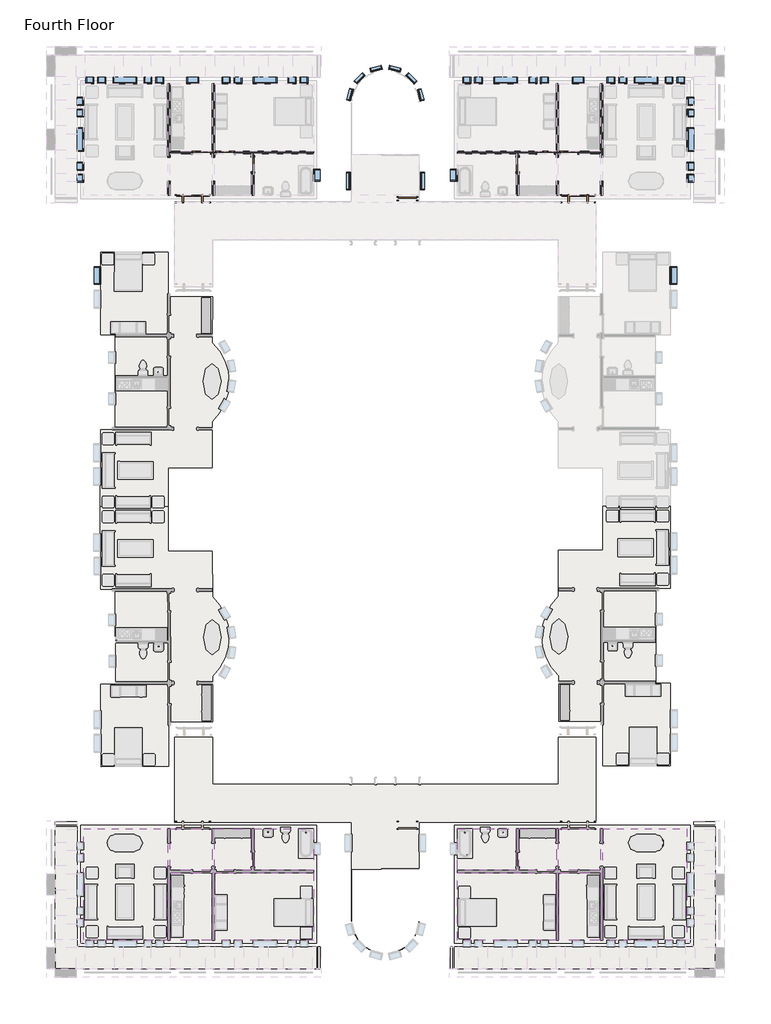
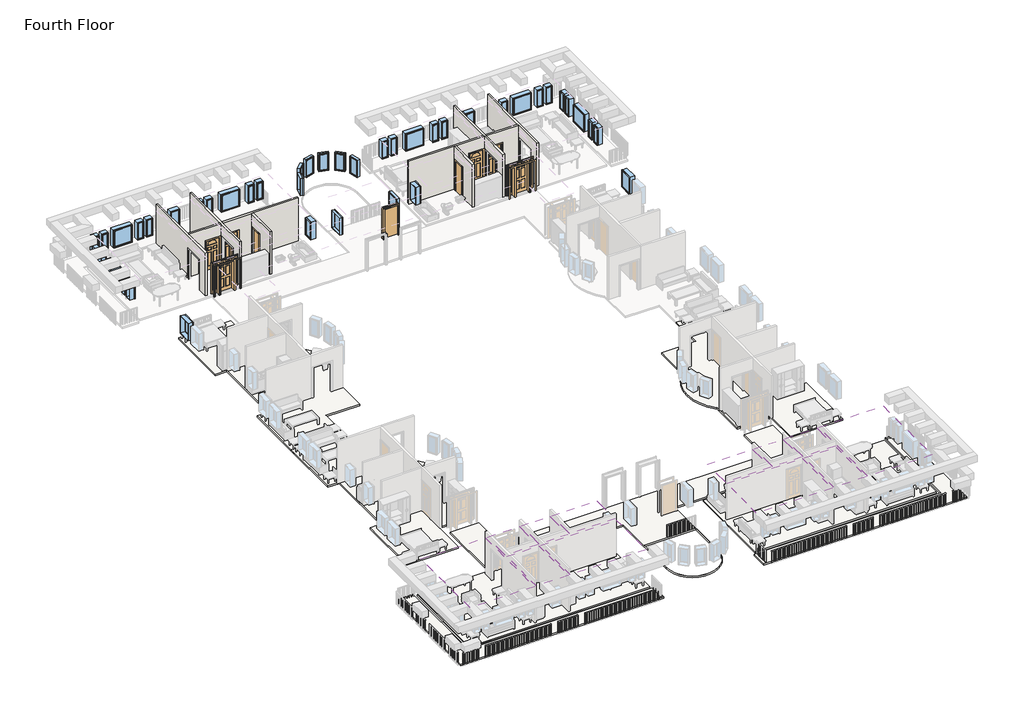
# One storey, part 3 of 6: 44 windows, 12 coverings, 10 walls, 9 doors, 8 slabs.
"""IFC4 building model written with IfcOpenShell, lengths in millimetres."""

from ifc_helpers import new_model, si_unit, point, frame, frame_2d, origin, place, context, project, spatial, polyline, circle_curve, trimmed, segment, composite_curve, outline, extrude, faceted_brep, transform, mapped, element, save
from components import door_829da954, door_2e3b4da2, door_4d6c7550, door_e36758a9, door_16372e1c, door_dba5aa2e, door_ffdb1193, window_da97879f, window_d61ef850, window_60baf983, window_ed80354a, window_80bd9af0, window_15c49d37, window_0e2fc6ce, window_e2841890, window_6eb97611, window_d89bf842

model = new_model("IFC4")

# Units and contexts
model_context = context("Model", 3, world=origin())
ifc_project = project(units=[si_unit("LENGTHUNIT", "METRE", prefix="MILLI")], contexts=[model_context])

# Site, building, storey
site = spatial("IfcSite", under=ifc_project)
building = spatial("IfcBuilding", under=site)
storey = spatial("IfcBuildingStorey", under=building, Name="Fourth Floor", Elevation=9144.0)

# Coverings
placement = place(None, origin())
element("IfcCovering", 1, ObjectType="GWB on Mtl. Stud", at=placement, inside=storey, context=model_context, shape_type="SweptSolid", body=[
    extrude(outline(polyline([(-11217.2464563, -33878.3558133), (-11217.2464563, -30395.3808133), (-6122.9589563, -30395.3808133), (-6122.9589563, -33878.3558133), (-11217.2464563, -33878.3558133)])), frame((0.0, 0.0, 11734.8), z_axis=(0.0, 0.0, 1.0), x_axis=(1.0, 0.0, 0.0)), (0.0, 0.0, 1.0), 107.95),
])
element("IfcCovering", 2, ObjectType="GWB on Mtl. Stud", at=placement, inside=storey, context=model_context, shape_type="SweptSolid", body=[
    extrude(outline(polyline([(-5995.9589563, -30395.3808133), (-3836.9589563, -30395.3808133), (-3836.9589563, -33878.3558133), (-5995.9589563, -33878.3558133), (-5995.9589563, -30395.3808133)])), frame((0.0, 0.0, 11734.8), z_axis=(0.0, 0.0, 1.0), x_axis=(1.0, 0.0, 0.0)), (0.0, 0.0, 1.0), 107.95),
])
element("IfcCovering", 3, ObjectType="GWB on Mtl. Stud", at=placement, inside=storey, context=model_context, shape_type="SweptSolid", body=[
    extrude(outline(polyline([(-3709.9589563, -28134.7808133), (622.3285437, -28134.7808133), (622.3285437, -33878.3558133), (-3709.9589563, -33878.3558133), (-3709.9589563, -28134.7808133)])), frame((0.0, 0.0, 11734.8), z_axis=(0.0, 0.0, 1.0), x_axis=(1.0, 0.0, 0.0)), (0.0, 0.0, 1.0), 107.95),
])
element("IfcCovering", 4, ObjectType="GWB on Mtl. Stud", at=placement, inside=storey, context=model_context, shape_type="SweptSolid", body=[
    extrude(outline(polyline([(-3836.9589563, -28134.7808133), (-3836.9589563, -30268.3808133), (-5995.9589563, -30268.3808133), (-5995.9589563, -28134.7808133), (-3836.9589563, -28134.7808133)])), frame((0.0, 0.0, 11734.8), z_axis=(0.0, 0.0, 1.0), x_axis=(1.0, 0.0, 0.0)), (0.0, 0.0, 1.0), 107.95),
])
element("IfcCovering", 5, ObjectType="GWB on Mtl. Stud", at=placement, inside=storey, context=model_context, shape_type="SweptSolid", body=[
    extrude(outline(polyline([(-6122.9589563, -28134.7808133), (-6122.9589563, -30268.3808133), (-8042.2464563, -30268.3808133), (-8042.2464563, -28134.7808133), (-6122.9589563, -28134.7808133)])), frame((0.0, 0.0, 11734.8), z_axis=(0.0, 0.0, 1.0), x_axis=(1.0, 0.0, 0.0)), (0.0, 0.0, 1.0), 107.95),
])
element("IfcCovering", 6, ObjectType="GWB on Mtl. Stud", at=placement, inside=storey, context=model_context, shape_type="SweptSolid", body=[
    extrude(outline(polyline([(-8169.2464563, -30268.3808133), (-11217.2464563, -30268.3808133), (-11217.2464563, -28134.7808133), (-8169.2464563, -28134.7808133), (-8169.2464563, -30268.3808133)])), frame((0.0, 0.0, 11734.8), z_axis=(0.0, 0.0, 1.0), x_axis=(1.0, 0.0, 0.0)), (0.0, 0.0, 1.0), 107.95),
])
element("IfcCovering", 7, ObjectType="GWB on Mtl. Stud", at=placement, inside=storey, context=model_context, shape_type="SweptSolid", body=[
    extrude(outline(polyline([(-18653.0964563, -33878.3558133), (-23747.3839563, -33878.3558133), (-23747.3839563, -30395.3808133), (-18653.0964563, -30395.3808133), (-18653.0964563, -33878.3558133)])), frame((0.0, 0.0, 11734.8), z_axis=(0.0, 0.0, 1.0), x_axis=(1.0, 0.0, 0.0)), (0.0, 0.0, 1.0), 107.95),
])
element("IfcCovering", 8, ObjectType="GWB on Mtl. Stud", at=placement, inside=storey, context=model_context, shape_type="SweptSolid", body=[
    extrude(outline(polyline([(-23874.3839563, -30395.3808133), (-23874.3839563, -33878.3558133), (-26033.3839563, -33878.3558133), (-26033.3839563, -30395.3808133), (-23874.3839563, -30395.3808133)])), frame((0.0, 0.0, 11734.8), z_axis=(0.0, 0.0, 1.0), x_axis=(1.0, 0.0, 0.0)), (0.0, 0.0, 1.0), 107.95),
])
element("IfcCovering", 9, ObjectType="GWB on Mtl. Stud", at=placement, inside=storey, context=model_context, shape_type="SweptSolid", body=[
    extrude(outline(polyline([(-26160.3839563, -28134.7808133), (-26160.3839563, -33878.3558133), (-30492.6714563, -33878.3558133), (-30492.6714563, -28134.7808133), (-26160.3839563, -28134.7808133)])), frame((0.0, 0.0, 11734.8), z_axis=(0.0, 0.0, 1.0), x_axis=(1.0, 0.0, 0.0)), (0.0, 0.0, 1.0), 107.95),
])
element("IfcCovering", 10, ObjectType="GWB on Mtl. Stud", at=placement, inside=storey, context=model_context, shape_type="SweptSolid", body=[
    extrude(outline(polyline([(-26033.3839563, -28134.7808133), (-23874.3839563, -28134.7808133), (-23874.3839563, -30268.3808133), (-26033.3839563, -30268.3808133), (-26033.3839563, -28134.7808133)])), frame((0.0, 0.0, 11734.8), z_axis=(0.0, 0.0, 1.0), x_axis=(1.0, 0.0, 0.0)), (0.0, 0.0, 1.0), 107.95),
])
element("IfcCovering", 11, ObjectType="GWB on Mtl. Stud", at=placement, inside=storey, context=model_context, shape_type="SweptSolid", body=[
    extrude(outline(polyline([(-23747.3839563, -28134.7808133), (-21828.0964563, -28134.7808133), (-21828.0964563, -30268.3808133), (-23747.3839563, -30268.3808133), (-23747.3839563, -28134.7808133)])), frame((0.0, 0.0, 11734.8), z_axis=(0.0, 0.0, 1.0), x_axis=(1.0, 0.0, 0.0)), (0.0, 0.0, 1.0), 107.95),
])
element("IfcCovering", 12, ObjectType="GWB on Mtl. Stud", at=placement, inside=storey, context=model_context, shape_type="SweptSolid", body=[
    extrude(outline(polyline([(-21701.0964563, -30268.3808133), (-21701.0964563, -28134.7808133), (-18653.0964563, -28134.7808133), (-18653.0964563, -30268.3808133), (-21701.0964563, -30268.3808133)])), frame((0.0, 0.0, 11734.8), z_axis=(0.0, 0.0, 1.0), x_axis=(1.0, 0.0, 0.0)), (0.0, 0.0, 1.0), 107.95),
])

# Doors
door_shape = door_829da954(model_context)
element("IfcDoor", 13, ObjectType="Single-Decorative 2 : 36\" x 84\"", at=placement, inside=storey, context=model_context, shape_type="MappedRepresentation", body=[
    mapped(door_shape, transform((-5449.8589563, 6723.5441867, 9144.0), x_axis=(-1.0, 0.0, 0.0), y_axis=(0.0, -1.0, 0.0), z_axis=(0.0, 0.0, 1.0))),
])
element("IfcDoor", 14, ObjectType="Single-Decorative 2 : 36\" x 84\"", at=placement, inside=storey, context=model_context, shape_type="MappedRepresentation", body=[
    mapped(door_shape, transform((-23201.2839563, 6723.5441867, 9144.0), x_axis=(-1.0, 0.0, 0.0), y_axis=(0.0, -1.0, 0.0), z_axis=(0.0, 0.0, 1.0))),
])
door_2_shape = door_2e3b4da2(model_context)
element("IfcDoor", 15, ObjectType="Single-Decorative 2 : 36\" x 84\"", at=placement, inside=storey, context=model_context, shape_type="MappedRepresentation", body=[
    mapped(door_2_shape, transform((-6669.0589563, 6723.5441867, 9144.0), x_axis=(1.0, 0.0, 0.0), y_axis=(0.0, 1.0, 0.0), z_axis=(0.0, 0.0, 1.0))),
])
element("IfcDoor", 16, ObjectType="Single-Decorative 2 : 36\" x 84\"", at=placement, inside=storey, context=model_context, shape_type="MappedRepresentation", body=[
    mapped(door_2_shape, transform((-24420.4839563, 6723.5441867, 9144.0), x_axis=(1.0, 0.0, 0.0), y_axis=(0.0, 1.0, 0.0), z_axis=(0.0, 0.0, 1.0))),
])
door_3_shape = door_4d6c7550(model_context)
element("IfcDoor", 17, ObjectType="Single-Flush : 30\" x 84\"", at=placement, inside=storey, context=model_context, shape_type="MappedRepresentation", body=[
    mapped(door_3_shape, transform((-8105.7464563, 6113.9441867, 9144.0), x_axis=(0.0, 1.0, 0.0), y_axis=(-1.0, 0.0, 0.0), z_axis=(0.0, 0.0, 1.0))),
])
door_4_shape = door_e36758a9(model_context)
element("IfcDoor", 18, ObjectType="Single-Flush : 30\" x 84\"", at=placement, inside=storey, context=model_context, shape_type="MappedRepresentation", body=[
    mapped(door_4_shape, transform((-21764.5964563, 6113.9441867, 9144.0), x_axis=(0.0, 1.0, 0.0), y_axis=(-1.0, 0.0, 0.0), z_axis=(0.0, 0.0, 1.0))),
])
door_5_shape = door_16372e1c(model_context)
element("IfcDoor", 19, ObjectType="Single-Flush : 36\" x 84\"", at=placement, inside=storey, context=model_context, shape_type="MappedRepresentation", body=[
    mapped(door_5_shape, transform((-13792.1714563, 4350.2316867, 9144.0), x_axis=(1.0, 0.0, 0.0), y_axis=(0.0, 1.0, 0.0), z_axis=(0.0, 0.0, 1.0))),
])
door_6_shape = door_dba5aa2e(model_context)
element("IfcDoor", 20, ObjectType="Single-Raised Panel with Sidelights : 36\" x 84\"", at=placement, inside=storey, context=model_context, shape_type="MappedRepresentation", body=[
    mapped(door_6_shape, transform((-4992.6589563, 4350.2316867, 9144.0), x_axis=(-1.0, 0.0, 0.0), y_axis=(0.0, -1.0, 0.0), z_axis=(0.0, 0.0, 1.0))),
])
door_7_shape = door_ffdb1193(model_context)
element("IfcDoor", 21, ObjectType="Single-Raised Panel with Sidelights : 36\" x 84\"", at=placement, inside=storey, context=model_context, shape_type="MappedRepresentation", body=[
    mapped(door_7_shape, transform((-24877.6839563, 4350.2316867, 9144.0), x_axis=(1.0, 0.0, 0.0), y_axis=(0.0, 1.0, 0.0), z_axis=(0.0, 0.0, 1.0))),
])

# Slabs
element("IfcSlab", 22, ObjectType="LW Concrete on Metal Deck", at=placement, inside=storey, context=model_context, shape_type="SweptSolid", body=[
    extrude(outline(composite_curve([segment(trimmed(circle_curve(frame_2d((-14935.1714563, -32835.3683133)), 1741.4875), [point((-13193.6839563, -32835.3683133))], [point((-16676.6589563, -32835.3683133))], False, "CARTESIAN"), True, "CONTINUOUS"), segment(polyline([(-16676.6589563, -32835.3683133), (-16676.6589563, -27795.0558133), (-25807.9589563, -27795.0558133), (-25807.9589563, -23410.3808133), (-23861.6839563, -23410.3808133), (-23861.6839563, -25836.0808133), (-6008.6589563, -25836.0808133), (-6008.6589563, -23410.3808133), (-4062.3839563, -23410.3808133), (-4062.3839563, -27795.0558133), (-13193.6839563, -27795.0558133), (-13193.6839563, -32835.3683133)]), True, "CONTINUOUS")], self_intersect=False), holes=[composite_curve([segment(polyline([(-13206.3839563, -30244.5683133), (-16663.9589563, -30244.5683133), (-16663.9589563, -32835.3683133)]), True, "CONTINUOUS"), segment(trimmed(circle_curve(frame_2d((-14935.1714563, -32835.3683133)), 1728.7875), [point((-16663.9589563, -32835.3683133))], [point((-13206.3839563, -32835.3683133))], True, "CARTESIAN"), True, "CONTINUOUS"), segment(polyline([(-13206.3839563, -32835.3683133), (-13206.3839563, -30244.5683133)]), True, "CONTINUOUS")], self_intersect=False)]), frame((0.0, 0.0, 9039.225), z_axis=(0.0, 0.0, 1.0), x_axis=(1.0, 0.0, 0.0)), (0.0, 0.0, 1.0), 104.775),
])
element("IfcSlab", 23, ObjectType="LW Concrete on Metal Deck", at=placement, inside=storey, context=model_context, shape_type="SweptSolid", body=[
    extrude(outline(polyline([(2093.9410437, -35349.9683133), (-11569.6714563, -35349.9683133), (-11569.6714563, -34230.7808133), (974.7535437, -34230.7808133), (974.7535437, -27782.3558133), (2093.9410437, -27782.3558133), (2093.9410437, -35349.9683133)])), frame((0.0, 0.0, 9039.225), z_axis=(0.0, 0.0, 1.0), x_axis=(1.0, 0.0, 0.0)), (0.0, 0.0, 1.0), 104.775),
])
element("IfcSlab", 24, ObjectType="LW Concrete on Metal Deck", at=placement, inside=storey, context=model_context, shape_type="SweptSolid", body=[
    extrude(outline(polyline([(-31964.2839563, -35349.9683133), (-31964.2839563, -27782.3558133), (-30845.0964563, -27782.3558133), (-30845.0964563, -34230.7808133), (-18300.6714563, -34230.7808133), (-18300.6714563, -35349.9683133), (-31964.2839563, -35349.9683133)])), frame((0.0, 0.0, 9039.225), z_axis=(0.0, 0.0, 1.0), x_axis=(1.0, 0.0, 0.0)), (0.0, 0.0, 1.0), 104.775),
])
element("IfcSlab", 25, ObjectType="LW Concrete on Metal Deck", at=placement, inside=storey, context=model_context, shape_type="SweptSolid", body=[
    extrude(outline(polyline([(787.4285437, -34043.4558133), (-11382.3464563, -34043.4558133), (-11382.3464563, -27969.6808133), (787.4285437, -27969.6808133), (787.4285437, -34043.4558133)])), frame((0.0, 0.0, 9039.225), z_axis=(0.0, 0.0, 1.0), x_axis=(1.0, 0.0, 0.0)), (0.0, 0.0, 1.0), 104.775),
])
element("IfcSlab", 26, ObjectType="LW Concrete on Metal Deck", at=placement, inside=storey, context=model_context, shape_type="SweptSolid", body=[
    extrude(outline(polyline([(-30657.7714563, -34043.4558133), (-30657.7714563, -27969.6808133), (-18487.9964563, -27969.6808133), (-18487.9964563, -34043.4558133), (-30657.7714563, -34043.4558133)])), frame((0.0, 0.0, 9039.225), z_axis=(0.0, 0.0, 1.0), x_axis=(1.0, 0.0, 0.0)), (0.0, 0.0, 1.0), 104.775),
])
element("IfcSlab", 27, ObjectType="LW Concrete on Metal Deck", at=placement, inside=storey, context=model_context, shape_type="SweptSolid", body=[
    extrude(outline(composite_curve([segment(polyline([(-29629.4198927, 1586.7324761), (-26146.4458956, 1584.0893338), (-26148.1806836, -701.9100079), (-23862.1813418, -703.6447959), (-23863.972674, -3064.1546144)]), True, "CONTINUOUS"), segment(trimmed(circle_curve(frame_2d((-25878.7211376, -5110.6032635)), 2871.7875), [point((-23863.972674, -3064.1546144))], [point((-23867.0809905, -7160.1074386))], False, "CARTESIAN"), True, "CONTINUOUS"), segment(polyline([(-23867.0809905, -7160.1074386), (-23868.8723227, -9520.6172571), (-26154.8716644, -9518.8824691), (-26156.6064524, -11804.8818109), (-29639.5804495, -11802.2386686), (-29636.3590446, -7557.264891), (-28874.359264, -7557.8431536), (-28870.641517, -2658.8195643), (-29632.6412976, -2658.2413016), (-29629.4198927, 1586.7324761)]), True, "CONTINUOUS")], self_intersect=False)), frame((0.0, 0.0, 9039.225), z_axis=(0.0, 0.0, 1.0), x_axis=(1.0, 0.0, 0.0)), (0.0, 0.0, 1.0), 104.775),
])
element("IfcSlab", 28, ObjectType="LW Concrete on Metal Deck", at=placement, inside=storey, context=model_context, shape_type="SweptSolid", body=[
    extrude(outline(composite_curve([segment(polyline([(-220.8330845, -24886.5771888), (-3703.8070816, -24889.220331), (-3705.5418696, -22603.2209892), (-5991.5412113, -22604.9557772), (-5993.3325434, -20244.4459587)]), True, "CONTINUOUS"), segment(trimmed(circle_curve(frame_2d((-3981.6923964, -18194.9417836)), 2871.7875), [point((-5993.3325434, -20244.4459587))], [point((-5996.44086, -16148.4931345))], False, "CARTESIAN"), True, "CONTINUOUS"), segment(polyline([(-5996.44086, -16148.4931345), (-5998.2321921, -13787.983316), (-3712.2328504, -13786.248528), (-3713.9676383, -11500.2491863), (-230.9936413, -11497.606044), (-227.7722364, -15742.5798217), (-989.772017, -15743.1580844), (-986.05427, -20642.1816737), (-224.0544894, -20641.6034111), (-220.8330845, -24886.5771888)]), True, "CONTINUOUS")], self_intersect=False)), frame((0.0, 0.0, 9039.225), z_axis=(0.0, 0.0, 1.0), x_axis=(1.0, 0.0, 0.0)), (0.0, 0.0, 1.0), 104.775),
])
element("IfcSlab", 29, ObjectType="LW Concrete on Metal Deck", at=placement, inside=storey, context=model_context, shape_type="SweptSolid", body=[
    extrude(outline(composite_curve([segment(polyline([(-29609.2961082, -24931.1815598), (-29618.9603154, -20686.2175607), (-28856.9622901, -20684.4827741), (-28868.1155225, -15785.4704699), (-29630.1135478, -15787.2052566), (-29639.777755, -11542.2412575), (-26156.8117812, -11534.3118369), (-26151.6074213, -13820.3059127), (-23865.6133455, -13815.1015528), (-23860.2393533, -16175.6059337)]), True, "CONTINUOUS"), segment(trimmed(circle_curve(frame_2d((-25868.7665498, -18228.1609137)), 2871.7875), [point((-23860.2393533, -16175.6059337))], [point((-23850.9144107, -20271.5493226))], False, "CARTESIAN"), True, "CONTINUOUS"), segment(polyline([(-23850.9144107, -20271.5493226), (-23845.5404184, -22632.0537035), (-26131.5344942, -22637.2580634), (-26126.3301343, -24923.2521392), (-29609.2961082, -24931.1815598)]), True, "CONTINUOUS")], self_intersect=False)), frame((0.0, 0.0, 9039.225), z_axis=(0.0, 0.0, 1.0), x_axis=(1.0, 0.0, 0.0)), (0.0, 0.0, 1.0), 104.775),
])

# Walls
element("IfcWall", 30, ObjectType="Interior - 5\" Partition (2-hr)", at=placement, inside=storey, context=model_context, shape_type="Brep", body=[
    faceted_brep([(-3709.9589563, 10270.0191867, 9144.0), (-3709.9589563, 6483.8316867, 9144.0), (-3836.9589563, 6483.8316867, 9144.0), (-3836.9589563, 6660.0441867, 9144.0), (-3836.9589563, 6787.0441867, 9144.0), (-3836.9589563, 10270.0191867, 9144.0), (-3709.9589563, 5264.6316867, 9144.0), (-3709.9589563, 4526.4441867, 9144.0), (-3836.9589563, 4526.4441867, 9144.0), (-3836.9589563, 5264.6316867, 9144.0), (-3836.9589563, 10270.0191867, 12192.0), (-3836.9589563, 6787.0441867, 12192.0), (-3836.9589563, 6660.0441867, 12192.0), (-3836.9589563, 4526.4441867, 12192.0), (-3709.9589563, 4526.4441867, 12192.0), (-3709.9589563, 10270.0191867, 12192.0), (-3836.9589563, 6483.8316867, 11277.6), (-3836.9589563, 5264.6316867, 11277.6), (-3709.9589563, 6483.8316867, 11277.6), (-3709.9589563, 5264.6316867, 11277.6)], [[[0, 1, 2, 3, 4, 5]], [[6, 7, 8, 9]], [[10, 11, 12, 13, 14, 15]], [[5, 4, 3, 2, 16, 17, 9, 8, 13, 12, 11, 10]], [[18, 1, 0, 15, 14, 7, 6, 19]], [[5, 10, 15, 0]], [[13, 8, 7, 14]], [[9, 17, 19, 6]], [[16, 2, 1, 18]], [[17, 16, 18, 19]]]),
])
element("IfcWall", 31, ObjectType="Interior - 5\" Partition (2-hr)", at=placement, inside=storey, context=model_context, shape_type="Brep", body=[
    faceted_brep([(-6122.9589563, 4526.4441867, 9144.0), (-6122.9589563, 5264.6316867, 9144.0), (-5995.9589563, 5264.6316867, 9144.0), (-5995.9589563, 4526.4441867, 9144.0), (-6122.9589563, 6483.8316867, 9144.0), (-6122.9589563, 6660.0441867, 9144.0), (-6122.9589563, 6787.0441867, 9144.0), (-6122.9589563, 10270.0191867, 9144.0), (-5995.9589563, 10270.0191867, 9144.0), (-5995.9589563, 6787.0441867, 9144.0), (-5995.9589563, 6660.0441867, 9144.0), (-5995.9589563, 6483.8316867, 9144.0), (-6122.9589563, 10270.0191867, 12192.0), (-6122.9589563, 6787.0441867, 12192.0), (-6122.9589563, 6660.0441867, 12192.0), (-6122.9589563, 4526.4441867, 12192.0), (-5995.9589563, 4526.4441867, 12192.0), (-5995.9589563, 6660.0441867, 12192.0), (-5995.9589563, 6787.0441867, 12192.0), (-5995.9589563, 10270.0191867, 12192.0), (-6122.9589563, 5264.6316867, 11277.6), (-6122.9589563, 6483.8316867, 11277.6), (-5995.9589563, 5264.6316867, 11277.6), (-5995.9589563, 6483.8316867, 11277.6)], [[[0, 1, 2, 3]], [[4, 5, 6, 7, 8, 9, 10, 11]], [[12, 13, 14, 15, 16, 17, 18, 19]], [[20, 1, 0, 15, 14, 13, 12, 7, 6, 5, 4, 21]], [[3, 2, 22, 23, 11, 10, 9, 8, 19, 18, 17, 16]], [[7, 12, 19, 8]], [[15, 0, 3, 16]], [[11, 23, 21, 4]], [[22, 2, 1, 20]], [[23, 22, 20, 21]]]),
])
element("IfcWall", 32, ObjectType="Interior - 5\" Partition (2-hr)", at=placement, inside=storey, context=model_context, shape_type="Brep", body=[
    faceted_brep([(-6122.9589563, 6660.0441867, 9144.0), (-6211.8589563, 6660.0441867, 9144.0), (-6211.8589563, 6787.0441867, 9144.0), (-6122.9589563, 6787.0441867, 9144.0), (-7126.2589563, 6660.0441867, 9144.0), (-8042.2464563, 6660.0441867, 9144.0), (-8169.2464563, 6660.0441867, 9144.0), (-11217.2464563, 6660.0441867, 9144.0), (-11217.2464563, 6787.0441867, 9144.0), (-7126.2589563, 6787.0441867, 9144.0), (-11217.2464563, 6660.0441867, 12192.0), (-8169.2464563, 6660.0441867, 12192.0), (-8042.2464563, 6660.0441867, 12192.0), (-6122.9589563, 6660.0441867, 12192.0), (-6122.9589563, 6787.0441867, 12192.0), (-11217.2464563, 6787.0441867, 12192.0), (-6211.8589563, 6660.0441867, 11277.6), (-7126.2589563, 6660.0441867, 11277.6), (-6211.8589563, 6787.0441867, 11277.6), (-7126.2589563, 6787.0441867, 11277.6)], [[[0, 1, 2, 3]], [[4, 5, 6, 7, 8, 9]], [[10, 11, 12, 13, 14, 15]], [[16, 1, 0, 13, 12, 11, 10, 7, 6, 5, 4, 17]], [[3, 2, 18, 19, 9, 8, 15, 14]], [[13, 0, 3, 14]], [[7, 10, 15, 8]], [[18, 2, 1, 16]], [[19, 18, 16, 17]], [[9, 19, 17, 4]]]),
])
element("IfcWall", 33, ObjectType="Interior - 5\" Partition (2-hr)", at=placement, inside=storey, context=model_context, shape_type="SweptSolid", body=[
    extrude(outline(polyline([(6660.0441867, 9144.0), (6494.9441867, 9144.0), (6494.9441867, 11277.6), (5732.9441867, 11277.6), (5732.9441867, 9144.0), (4526.4441867, 9144.0), (4526.4441867, 12192.0), (6660.0441867, 12192.0), (6660.0441867, 9144.0)])), frame((-8169.2464563, 0.0, 0.0), z_axis=(1.0, 0.0, 0.0), x_axis=(0.0, 1.0, 0.0)), (0.0, 0.0, 1.0), 127.0),
])
element("IfcWall", 34, ObjectType="Interior - 5\" Partition (2-hr)", at=placement, inside=storey, context=model_context, shape_type="SweptSolid", body=[
    extrude(outline(polyline([(9144.0, -5995.9589563), (9144.0, -5907.0589563), (11277.6, -5907.0589563), (11277.6, -4992.6589563), (9144.0, -4992.6589563), (9144.0, -3836.9589563), (12192.0, -3836.9589563), (12192.0, -5995.9589563), (9144.0, -5995.9589563)])), frame((0.0, 6660.0441867, 0.0), z_axis=(0.0, 1.0, 0.0), x_axis=(0.0, 0.0, 1.0)), (0.0, 0.0, 1.0), 127.0),
])
element("IfcWall", 35, ObjectType="Interior - 5\" Partition (2-hr)", at=placement, inside=storey, context=model_context, shape_type="Brep", body=[
    faceted_brep([(-26033.3839563, 10270.0191867, 9144.0), (-26033.3839563, 6787.0441867, 9144.0), (-26033.3839563, 6660.0441867, 9144.0), (-26033.3839563, 6483.8316867, 9144.0), (-26160.3839563, 6483.8316867, 9144.0), (-26160.3839563, 10270.0191867, 9144.0), (-26033.3839563, 5264.6316867, 9144.0), (-26033.3839563, 4526.4441867, 9144.0), (-26160.3839563, 4526.4441867, 9144.0), (-26160.3839563, 5264.6316867, 9144.0), (-26160.3839563, 10270.0191867, 12192.0), (-26160.3839563, 4526.4441867, 12192.0), (-26033.3839563, 4526.4441867, 12192.0), (-26033.3839563, 6660.0441867, 12192.0), (-26033.3839563, 6787.0441867, 12192.0), (-26033.3839563, 10270.0191867, 12192.0), (-26160.3839563, 6483.8316867, 11277.6), (-26160.3839563, 5264.6316867, 11277.6), (-26033.3839563, 6483.8316867, 11277.6), (-26033.3839563, 5264.6316867, 11277.6)], [[[0, 1, 2, 3, 4, 5]], [[6, 7, 8, 9]], [[10, 11, 12, 13, 14, 15]], [[5, 4, 16, 17, 9, 8, 11, 10]], [[18, 3, 2, 1, 0, 15, 14, 13, 12, 7, 6, 19]], [[5, 10, 15, 0]], [[11, 8, 7, 12]], [[9, 17, 19, 6]], [[16, 4, 3, 18]], [[17, 16, 18, 19]]]),
])
element("IfcWall", 36, ObjectType="Interior - 5\" Partition (2-hr)", at=placement, inside=storey, context=model_context, shape_type="Brep", body=[
    faceted_brep([(-23874.3839563, 4526.4441867, 9144.0), (-23874.3839563, 5264.6316867, 9144.0), (-23747.3839563, 5264.6316867, 9144.0), (-23747.3839563, 4526.4441867, 9144.0), (-23874.3839563, 6483.8316867, 9144.0), (-23874.3839563, 6660.0441867, 9144.0), (-23874.3839563, 6787.0441867, 9144.0), (-23874.3839563, 10270.0191867, 9144.0), (-23747.3839563, 10270.0191867, 9144.0), (-23747.3839563, 6787.0441867, 9144.0), (-23747.3839563, 6660.0441867, 9144.0), (-23747.3839563, 6483.8316867, 9144.0), (-23874.3839563, 10270.0191867, 12192.0), (-23874.3839563, 6787.0441867, 12192.0), (-23874.3839563, 6660.0441867, 12192.0), (-23874.3839563, 4526.4441867, 12192.0), (-23747.3839563, 4526.4441867, 12192.0), (-23747.3839563, 6660.0441867, 12192.0), (-23747.3839563, 6787.0441867, 12192.0), (-23747.3839563, 10270.0191867, 12192.0), (-23874.3839563, 5264.6316867, 11277.6), (-23874.3839563, 6483.8316867, 11277.6), (-23747.3839563, 5264.6316867, 11277.6), (-23747.3839563, 6483.8316867, 11277.6)], [[[0, 1, 2, 3]], [[4, 5, 6, 7, 8, 9, 10, 11]], [[12, 13, 14, 15, 16, 17, 18, 19]], [[20, 1, 0, 15, 14, 13, 12, 7, 6, 5, 4, 21]], [[3, 2, 22, 23, 11, 10, 9, 8, 19, 18, 17, 16]], [[7, 12, 19, 8]], [[15, 0, 3, 16]], [[11, 23, 21, 4]], [[22, 2, 1, 20]], [[23, 22, 20, 21]]]),
])
element("IfcWall", 37, ObjectType="Interior - 5\" Partition (2-hr)", at=placement, inside=storey, context=model_context, shape_type="Brep", body=[
    faceted_brep([(-23747.3839563, 6787.0441867, 9144.0), (-23658.4839563, 6787.0441867, 9144.0), (-23658.4839563, 6660.0441867, 9144.0), (-23747.3839563, 6660.0441867, 9144.0), (-22744.0839563, 6787.0441867, 9144.0), (-18653.0964563, 6787.0441867, 9144.0), (-18653.0964563, 6660.0441867, 9144.0), (-21701.0964563, 6660.0441867, 9144.0), (-21828.0964563, 6660.0441867, 9144.0), (-22744.0839563, 6660.0441867, 9144.0), (-18653.0964563, 6787.0441867, 12192.0), (-23747.3839563, 6787.0441867, 12192.0), (-23747.3839563, 6660.0441867, 12192.0), (-21828.0964563, 6660.0441867, 12192.0), (-21701.0964563, 6660.0441867, 12192.0), (-18653.0964563, 6660.0441867, 12192.0), (-23658.4839563, 6787.0441867, 11277.6), (-22744.0839563, 6787.0441867, 11277.6), (-23658.4839563, 6660.0441867, 11277.6), (-22744.0839563, 6660.0441867, 11277.6)], [[[0, 1, 2, 3]], [[4, 5, 6, 7, 8, 9]], [[10, 11, 12, 13, 14, 15]], [[16, 1, 0, 11, 10, 5, 4, 17]], [[3, 2, 18, 19, 9, 8, 7, 6, 15, 14, 13, 12]], [[11, 0, 3, 12]], [[5, 10, 15, 6]], [[18, 2, 1, 16]], [[19, 18, 16, 17]], [[9, 19, 17, 4]]]),
])
element("IfcWall", 38, ObjectType="Interior - 5\" Partition (2-hr)", at=placement, inside=storey, context=model_context, shape_type="SweptSolid", body=[
    extrude(outline(polyline([(6660.0441867, 9144.0), (6494.9441867, 9144.0), (6494.9441867, 11277.6), (5732.9441867, 11277.6), (5732.9441867, 9144.0), (4526.4441867, 9144.0), (4526.4441867, 12192.0), (6660.0441867, 12192.0), (6660.0441867, 9144.0)])), frame((-21828.0964563, 0.0, 0.0), z_axis=(1.0, 0.0, 0.0), x_axis=(0.0, 1.0, 0.0)), (0.0, 0.0, 1.0), 127.0),
])
element("IfcWall", 39, ObjectType="Interior - 5\" Partition (2-hr)", at=placement, inside=storey, context=model_context, shape_type="SweptSolid", body=[
    extrude(outline(polyline([(11277.6, -23963.2839563), (9144.0, -23963.2839563), (9144.0, -23874.3839563), (12192.0, -23874.3839563), (12192.0, -26033.3839563), (9144.0, -26033.3839563), (9144.0, -24877.6839563), (11277.6, -24877.6839563), (11277.6, -23963.2839563)])), frame((0.0, 6660.0441867, 0.0), z_axis=(0.0, 1.0, 0.0), x_axis=(0.0, 0.0, 1.0)), (0.0, 0.0, 1.0), 127.0),
])

# Windows
window_shape = window_da97879f(model_context)
element("IfcWindow", 40, ObjectType="Fixed : 16\" x 48\"", at=placement, inside=storey, context=model_context, shape_type="MappedRepresentation", body=[
    mapped(window_shape, transform((-10771.1589563, 10446.2316867, 9144.0), x_axis=(-1.0, 0.0, 0.0), y_axis=(0.0, -1.0, 0.0), z_axis=(0.0, 0.0, 1.0))),
])
element("IfcWindow", 41, ObjectType="Fixed : 16\" x 48\"", at=placement, inside=storey, context=model_context, shape_type="MappedRepresentation", body=[
    mapped(window_shape, transform((-10161.5589563, 10446.2316867, 9144.0), x_axis=(-1.0, 0.0, 0.0), y_axis=(0.0, -1.0, 0.0), z_axis=(0.0, 0.0, 1.0))),
])
element("IfcWindow", 42, ObjectType="Fixed : 16\" x 48\"", at=placement, inside=storey, context=model_context, shape_type="MappedRepresentation", body=[
    mapped(window_shape, transform((-3328.9589563, 10446.2316867, 9144.0), x_axis=(-1.0, 0.0, 0.0), y_axis=(0.0, -1.0, 0.0), z_axis=(0.0, 0.0, 1.0))),
])
element("IfcWindow", 43, ObjectType="Fixed : 16\" x 48\"", at=placement, inside=storey, context=model_context, shape_type="MappedRepresentation", body=[
    mapped(window_shape, transform((-2719.3589563, 10446.2316867, 9144.0), x_axis=(-1.0, 0.0, 0.0), y_axis=(0.0, -1.0, 0.0), z_axis=(0.0, 0.0, 1.0))),
])
element("IfcWindow", 44, ObjectType="Fixed : 16\" x 48\"", at=placement, inside=storey, context=model_context, shape_type="MappedRepresentation", body=[
    mapped(window_shape, transform((798.5410437, 9417.5316867, 9144.0), x_axis=(0.0, 1.0, 0.0), y_axis=(-1.0, 0.0, 0.0), z_axis=(0.0, 0.0, 1.0))),
])
element("IfcWindow", 45, ObjectType="Fixed : 16\" x 48\"", at=placement, inside=storey, context=model_context, shape_type="MappedRepresentation", body=[
    mapped(window_shape, transform((798.5410437, 8807.9316867, 9144.0), x_axis=(0.0, 1.0, 0.0), y_axis=(-1.0, 0.0, 0.0), z_axis=(0.0, 0.0, 1.0))),
])
element("IfcWindow", 46, ObjectType="Fixed : 16\" x 48\"", at=placement, inside=storey, context=model_context, shape_type="MappedRepresentation", body=[
    mapped(window_shape, transform((-23188.5839563, 10446.2316867, 9144.0), x_axis=(-1.0, 0.0, 0.0), y_axis=(0.0, -1.0, 0.0), z_axis=(0.0, 0.0, 1.0))),
])
element("IfcWindow", 47, ObjectType="Fixed : 16\" x 48\"", at=placement, inside=storey, context=model_context, shape_type="MappedRepresentation", body=[
    mapped(window_shape, transform((-22578.9839563, 10446.2316867, 9144.0), x_axis=(-1.0, 0.0, 0.0), y_axis=(0.0, -1.0, 0.0), z_axis=(0.0, 0.0, 1.0))),
])
element("IfcWindow", 48, ObjectType="Fixed : 16\" x 48\"", at=placement, inside=storey, context=model_context, shape_type="MappedRepresentation", body=[
    mapped(window_shape, transform((-30224.3839563, 10446.2316867, 9144.0), x_axis=(-1.0, 0.0, 0.0), y_axis=(0.0, -1.0, 0.0), z_axis=(0.0, 0.0, 1.0))),
])
element("IfcWindow", 49, ObjectType="Fixed : 16\" x 48\"", at=placement, inside=storey, context=model_context, shape_type="MappedRepresentation", body=[
    mapped(window_shape, transform((-29614.7839563, 10446.2316867, 9144.0), x_axis=(-1.0, 0.0, 0.0), y_axis=(0.0, -1.0, 0.0), z_axis=(0.0, 0.0, 1.0))),
])
element("IfcWindow", 50, ObjectType="Fixed : 16\" x 48\"", at=placement, inside=storey, context=model_context, shape_type="MappedRepresentation", body=[
    mapped(window_shape, transform((-30668.8839563, 5378.9316867, 9144.0), x_axis=(0.0, -1.0, 0.0), y_axis=(1.0, 0.0, 0.0), z_axis=(0.0, 0.0, 1.0))),
])
element("IfcWindow", 51, ObjectType="Fixed : 16\" x 48\"", at=placement, inside=storey, context=model_context, shape_type="MappedRepresentation", body=[
    mapped(window_shape, transform((-30668.8839563, 5988.5316867, 9144.0), x_axis=(0.0, -1.0, 0.0), y_axis=(1.0, 0.0, 0.0), z_axis=(0.0, 0.0, 1.0))),
])
window_2_shape = window_d61ef850(model_context)
element("IfcWindow", 52, ObjectType="Fixed : 16\" x 48\"", at=placement, inside=storey, context=model_context, shape_type="MappedRepresentation", body=[
    mapped(window_2_shape, transform((-6681.7589563, 10446.2316867, 9144.0), x_axis=(1.0, 0.0, 0.0), y_axis=(0.0, 1.0, 0.0), z_axis=(0.0, 0.0, 1.0))),
])
element("IfcWindow", 53, ObjectType="Fixed : 16\" x 48\"", at=placement, inside=storey, context=model_context, shape_type="MappedRepresentation", body=[
    mapped(window_2_shape, transform((-7291.3589563, 10446.2316867, 9144.0), x_axis=(1.0, 0.0, 0.0), y_axis=(0.0, 1.0, 0.0), z_axis=(0.0, 0.0, 1.0))),
])
element("IfcWindow", 54, ObjectType="Fixed : 16\" x 48\"", at=placement, inside=storey, context=model_context, shape_type="MappedRepresentation", body=[
    mapped(window_2_shape, transform((354.0410437, 10446.2316867, 9144.0), x_axis=(1.0, 0.0, 0.0), y_axis=(0.0, 1.0, 0.0), z_axis=(0.0, 0.0, 1.0))),
])
element("IfcWindow", 55, ObjectType="Fixed : 16\" x 48\"", at=placement, inside=storey, context=model_context, shape_type="MappedRepresentation", body=[
    mapped(window_2_shape, transform((-255.5589563, 10446.2316867, 9144.0), x_axis=(1.0, 0.0, 0.0), y_axis=(0.0, 1.0, 0.0), z_axis=(0.0, 0.0, 1.0))),
])
element("IfcWindow", 56, ObjectType="Fixed : 16\" x 48\"", at=placement, inside=storey, context=model_context, shape_type="MappedRepresentation", body=[
    mapped(window_2_shape, transform((798.5410437, 5378.9316867, 9144.0), x_axis=(0.0, -1.0, 0.0), y_axis=(1.0, 0.0, 0.0), z_axis=(0.0, 0.0, 1.0))),
])
element("IfcWindow", 57, ObjectType="Fixed : 16\" x 48\"", at=placement, inside=storey, context=model_context, shape_type="MappedRepresentation", body=[
    mapped(window_2_shape, transform((798.5410437, 5988.5316867, 9144.0), x_axis=(0.0, -1.0, 0.0), y_axis=(1.0, 0.0, 0.0), z_axis=(0.0, 0.0, 1.0))),
])
element("IfcWindow", 58, ObjectType="Fixed : 16\" x 48\"", at=placement, inside=storey, context=model_context, shape_type="MappedRepresentation", body=[
    mapped(window_2_shape, transform((-19099.1839563, 10446.2316867, 9144.0), x_axis=(1.0, 0.0, 0.0), y_axis=(0.0, 1.0, 0.0), z_axis=(0.0, 0.0, 1.0))),
])
element("IfcWindow", 59, ObjectType="Fixed : 16\" x 48\"", at=placement, inside=storey, context=model_context, shape_type="MappedRepresentation", body=[
    mapped(window_2_shape, transform((-19708.7839563, 10446.2316867, 9144.0), x_axis=(1.0, 0.0, 0.0), y_axis=(0.0, 1.0, 0.0), z_axis=(0.0, 0.0, 1.0))),
])
element("IfcWindow", 60, ObjectType="Fixed : 16\" x 48\"", at=placement, inside=storey, context=model_context, shape_type="MappedRepresentation", body=[
    mapped(window_2_shape, transform((-26541.3839563, 10446.2316867, 9144.0), x_axis=(1.0, 0.0, 0.0), y_axis=(0.0, 1.0, 0.0), z_axis=(0.0, 0.0, 1.0))),
])
element("IfcWindow", 61, ObjectType="Fixed : 16\" x 48\"", at=placement, inside=storey, context=model_context, shape_type="MappedRepresentation", body=[
    mapped(window_2_shape, transform((-27150.9839563, 10446.2316867, 9144.0), x_axis=(1.0, 0.0, 0.0), y_axis=(0.0, 1.0, 0.0), z_axis=(0.0, 0.0, 1.0))),
])
element("IfcWindow", 62, ObjectType="Fixed : 16\" x 48\"", at=placement, inside=storey, context=model_context, shape_type="MappedRepresentation", body=[
    mapped(window_2_shape, transform((-30668.8839563, 9417.5316867, 9144.0), x_axis=(0.0, 1.0, 0.0), y_axis=(-1.0, 0.0, 0.0), z_axis=(0.0, 0.0, 1.0))),
])
element("IfcWindow", 63, ObjectType="Fixed : 16\" x 48\"", at=placement, inside=storey, context=model_context, shape_type="MappedRepresentation", body=[
    mapped(window_2_shape, transform((-30668.8839563, 8807.9316867, 9144.0), x_axis=(0.0, 1.0, 0.0), y_axis=(-1.0, 0.0, 0.0), z_axis=(0.0, 0.0, 1.0))),
])
window_3_shape = window_60baf983(model_context)
element("IfcWindow", 64, ObjectType="Fixed : 24\" x 48\"", at=placement, inside=storey, context=model_context, shape_type="MappedRepresentation", body=[
    mapped(window_3_shape, transform((-5030.7589563, 10446.2316867, 9144.0), x_axis=(-1.0, 0.0, 0.0), y_axis=(0.0, -1.0, 0.0), z_axis=(0.0, 0.0, 1.0))),
])
element("IfcWindow", 65, ObjectType="Fixed : 24\" x 48\"", at=placement, inside=storey, context=model_context, shape_type="MappedRepresentation", body=[
    mapped(window_3_shape, transform((-11393.4589563, 5531.3316867, 9144.0), x_axis=(0.0, -1.0, 0.0), y_axis=(1.0, 0.0, 0.0), z_axis=(0.0, 0.0, 1.0))),
])
window_4_shape = window_ed80354a(model_context)
element("IfcWindow", 66, ObjectType="Fixed : 24\" x 48\"", at=placement, inside=storey, context=model_context, shape_type="MappedRepresentation", body=[
    mapped(window_4_shape, transform((-24839.5839563, 10446.2316867, 9144.0), x_axis=(1.0, 0.0, 0.0), y_axis=(0.0, 1.0, 0.0), z_axis=(0.0, 0.0, 1.0))),
])
element("IfcWindow", 67, ObjectType="Fixed : 24\" x 48\"", at=placement, inside=storey, context=model_context, shape_type="MappedRepresentation", body=[
    mapped(window_4_shape, transform((-18476.8839563, 5531.3316867, 9144.0), x_axis=(0.0, -1.0, 0.0), y_axis=(1.0, 0.0, 0.0), z_axis=(0.0, 0.0, 1.0))),
])
window_5_shape = window_80bd9af0(model_context)
element("IfcWindow", 68, ObjectType="Fixed : 24\" x 48\"", at=placement, inside=storey, context=model_context, shape_type="MappedRepresentation", body=[
    mapped(window_5_shape, transform((-16762.064163, 9683.0417496, 9144.0), x_axis=(-0.26176149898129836, -0.9651325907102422, 0.0), y_axis=(0.9651325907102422, -0.26176149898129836, 0.0), z_axis=(0.0, 0.0, 1.0))),
])
element("IfcWindow", 69, ObjectType="Fixed : 24\" x 48\"", at=placement, inside=storey, context=model_context, shape_type="MappedRepresentation", body=[
    mapped(window_5_shape, transform((-16289.3019188, 10535.3943388, 9144.0), x_axis=(-0.7092584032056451, -0.7049485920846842, 0.0), y_axis=(0.7049485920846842, -0.7092584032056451, 0.0), z_axis=(0.0, 0.0, 1.0))),
])
element("IfcWindow", 70, ObjectType="Fixed : 24\" x 48\"", at=placement, inside=storey, context=model_context, shape_type="MappedRepresentation", body=[
    mapped(window_5_shape, transform((-15453.7015108, 11037.1722121, 9144.0), x_axis=(-0.9667100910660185, -0.25587418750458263, 0.0), y_axis=(0.25587418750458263, -0.9667100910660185, 0.0), z_axis=(0.0, 0.0, 1.0))),
])
element("IfcWindow", 71, ObjectType="Fixed : 24\" x 48\"", at=placement, inside=storey, context=model_context, shape_type="MappedRepresentation", body=[
    mapped(window_5_shape, transform((-14479.1613934, 11053.9243933, 9144.0), x_axis=(-0.9651325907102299, 0.2617614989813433, 0.0), y_axis=(-0.2617614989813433, -0.9651325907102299, 0.0), z_axis=(0.0, 0.0, 1.0))),
])
element("IfcWindow", 72, ObjectType="Fixed : 24\" x 48\"", at=placement, inside=storey, context=model_context, shape_type="MappedRepresentation", body=[
    mapped(window_5_shape, transform((-13626.8088042, 10581.1621492, 9144.0), x_axis=(-0.7049485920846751, 0.7092584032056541, 0.0), y_axis=(-0.7092584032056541, -0.7049485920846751, 0.0), z_axis=(0.0, 0.0, 1.0))),
])
element("IfcWindow", 73, ObjectType="Fixed : 24\" x 48\"", at=placement, inside=storey, context=model_context, shape_type="MappedRepresentation", body=[
    mapped(window_5_shape, transform((-13125.0309309, 9745.5617412, 9144.0), x_axis=(-0.25587418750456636, 0.9667100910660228, 0.0), y_axis=(-0.9667100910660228, -0.25587418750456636, 0.0), z_axis=(0.0, 0.0, 1.0))),
])
window_6_shape = window_15c49d37(model_context)
element("IfcWindow", 74, ObjectType="Fixed : 36\" x 48\"", at=placement, inside=storey, context=model_context, shape_type="MappedRepresentation", body=[
    mapped(window_6_shape, transform((-29793.8696765, 351.6982734, 9144.0), x_axis=(-0.0007588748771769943, -0.999999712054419, 0.0), y_axis=(0.999999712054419, -0.0007588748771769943, 0.0), z_axis=(0.0, 0.0, 1.0))),
])
window_7_shape = window_0e2fc6ce(model_context)
element("IfcWindow", 75, ObjectType="Fixed : 36\" x 48\"", at=placement, inside=storey, context=model_context, shape_type="MappedRepresentation", body=[
    mapped(window_7_shape, transform((-76.4732361, 351.6982734, 9144.0), x_axis=(0.0007588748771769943, -0.999999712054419, 0.0), y_axis=(0.999999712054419, 0.0007588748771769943, 0.0), z_axis=(0.0, 0.0, 1.0))),
])
window_8_shape = window_e2841890(model_context)
element("IfcWindow", 76, ObjectType="Fixed : 36\" x 48\"", at=placement, inside=storey, context=model_context, shape_type="MappedRepresentation", body=[
    mapped(window_8_shape, transform((-16840.1714563, 5226.5316867, 9144.0), x_axis=(0.0, -1.0, 0.0), y_axis=(1.0, 0.0, 0.0), z_axis=(0.0, 0.0, 1.0))),
])
element("IfcWindow", 77, ObjectType="Fixed : 36\" x 48\"", at=placement, inside=storey, context=model_context, shape_type="MappedRepresentation", body=[
    mapped(window_8_shape, transform((-13030.1714563, 5302.7316867, 9144.0), x_axis=(0.0, 1.0, 0.0), y_axis=(-1.0, 0.0, 0.0), z_axis=(0.0, 0.0, 1.0))),
])
window_9_shape = window_6eb97611(model_context)
element("IfcWindow", 78, ObjectType="Fixed : 48\" x 48\"", at=placement, inside=storey, context=model_context, shape_type="MappedRepresentation", body=[
    mapped(window_9_shape, transform((-8764.5589563, 10446.2316867, 9144.0), x_axis=(-1.0, 0.0, 0.0), y_axis=(0.0, -1.0, 0.0), z_axis=(0.0, 0.0, 1.0))),
])
element("IfcWindow", 79, ObjectType="Fixed : 48\" x 48\"", at=placement, inside=storey, context=model_context, shape_type="MappedRepresentation", body=[
    mapped(window_9_shape, transform((-1525.5589563, 10446.2316867, 9144.0), x_axis=(-1.0, 0.0, 0.0), y_axis=(0.0, -1.0, 0.0), z_axis=(0.0, 0.0, 1.0))),
])
element("IfcWindow", 80, ObjectType="Fixed : 48\" x 48\"", at=placement, inside=storey, context=model_context, shape_type="MappedRepresentation", body=[
    mapped(window_9_shape, transform((798.5410437, 7436.3316867, 9144.0), x_axis=(0.0, 1.0, 0.0), y_axis=(-1.0, 0.0, 0.0), z_axis=(0.0, 0.0, 1.0))),
])
window_10_shape = window_d89bf842(model_context)
element("IfcWindow", 81, ObjectType="Fixed : 48\" x 48\"", at=placement, inside=storey, context=model_context, shape_type="MappedRepresentation", body=[
    mapped(window_10_shape, transform((-21105.7839563, 10446.2316867, 9144.0), x_axis=(1.0, 0.0, 0.0), y_axis=(0.0, 1.0, 0.0), z_axis=(0.0, 0.0, 1.0))),
])
element("IfcWindow", 82, ObjectType="Fixed : 48\" x 48\"", at=placement, inside=storey, context=model_context, shape_type="MappedRepresentation", body=[
    mapped(window_10_shape, transform((-28344.7839563, 10446.2316867, 9144.0), x_axis=(1.0, 0.0, 0.0), y_axis=(0.0, 1.0, 0.0), z_axis=(0.0, 0.0, 1.0))),
])
element("IfcWindow", 83, ObjectType="Fixed : 48\" x 48\"", at=placement, inside=storey, context=model_context, shape_type="MappedRepresentation", body=[
    mapped(window_10_shape, transform((-30668.8839563, 7436.3316867, 9144.0), x_axis=(0.0, 1.0, 0.0), y_axis=(-1.0, 0.0, 0.0), z_axis=(0.0, 0.0, 1.0))),
])

save(model, "model.ifc")
